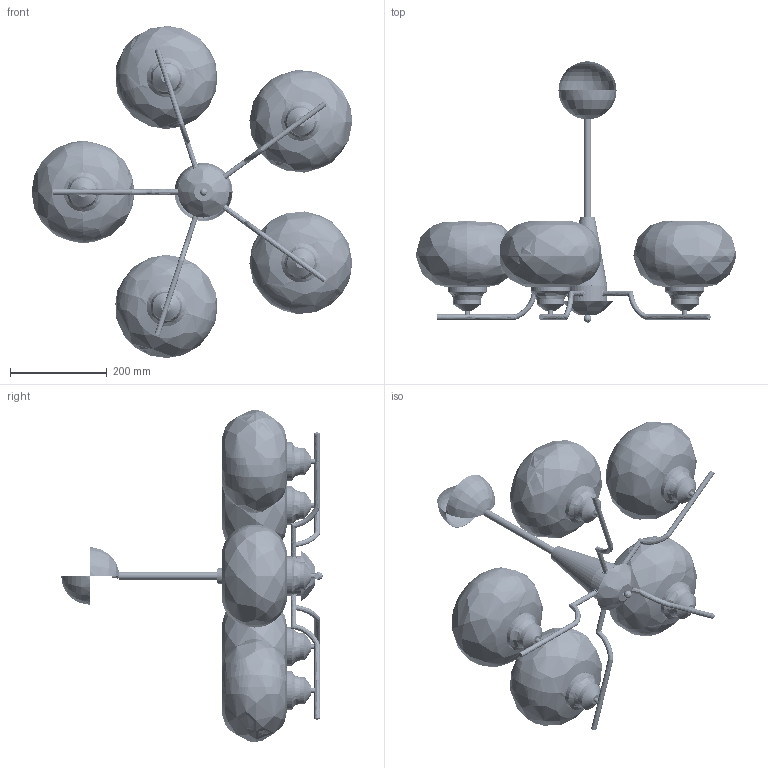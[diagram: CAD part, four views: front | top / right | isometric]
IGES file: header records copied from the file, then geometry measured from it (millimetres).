
Start section: SolidWorks IGES file using analytic representation for surfaces
Global section: file name: F:\燠隴矨\3D\2025-4\Celeste Sphere Walnut Chandelier-5lights.IGS,15; native system: HSolidWorks 2022; preprocessor: SolidWorks 2022; author: MyPC; date: 250415.151603; units: millimetre
Bounding box: 663.06 x 540.11 x 686.21 mm (x, y, z)
Surface area: 1480548.3 mm2 (no closed solid volume)
Topology: 0 solids, 0 shells, 1220 faces, 17500 edges, 17479 vertices
Faces by surface type: revolution 840, bspline 380
